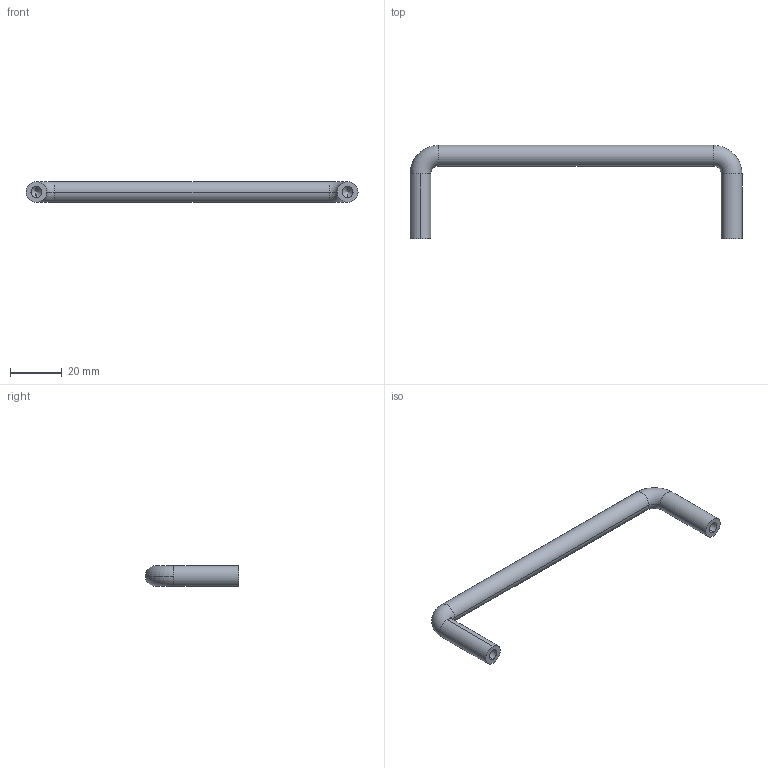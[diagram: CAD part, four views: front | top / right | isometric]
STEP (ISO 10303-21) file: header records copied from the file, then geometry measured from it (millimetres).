
FILE_DESCRIPTION (( 'STEP AP203' ), '1' );
FILE_NAME ('SK4-012-120S.STEP', '2018-11-02T04:02:25', ( 'admin' ), ( 'Microsoft' ), 'SwSTEP 2.0', 'SolidWorks 2015', '' );
FILE_SCHEMA (( 'CONFIG_CONTROL_DESIGN' ));
Length unit declared in the file: millimetre
Products named in the file (1): SK4-012-120S
Bounding box: 128 x 36 x 8 mm (x, y, z)
Volume: 8539.5 mm3; surface area: 4954.9 mm2
Topology: 1 solids, 1 shells, 20 faces, 44 edges, 24 vertices
Faces by surface type: cylinder 10, torus 4, cone 4, plane 2
Entity records: 603 total; most frequent: DIRECTION 108, CARTESIAN_POINT 85, ORIENTED_EDGE 80, AXIS2_PLACEMENT_3D 47, EDGE_CURVE 40, CIRCLE 26, VERTEX_POINT 24, EDGE_LOOP 22
